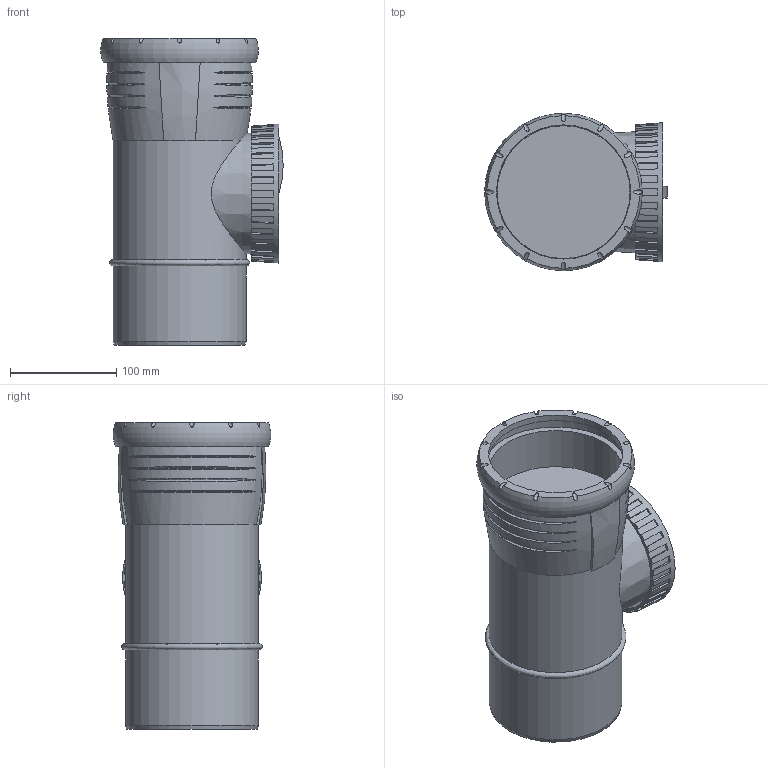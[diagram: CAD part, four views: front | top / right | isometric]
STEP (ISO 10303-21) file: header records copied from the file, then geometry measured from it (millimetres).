
FILE_DESCRIPTION(/* description */ (''),/* implementation_level */ '2;1');
FILE_NAME(/* name */ 'H:\Geberit-Teile\Export\Rein Stück PP\stp\393627.stp',/* time_stamp */ '2017-02-13T15:12:12+01:00',/* author */ ('seihe2'),/* organization */ (''),/* preprocessor_version */ 'ST-DEVELOPER v15.2',/* originating_system */ 'Autodesk Inventor 2014',/* authorisation */ '');
FILE_SCHEMA (('AUTOMOTIVE_DESIGN { 1 0 10303 214 3 1 1 }'));
Length unit declared in the file: millimetre
Products named in the file (1): 393627
Bounding box: 171.76 x 148.35 x 289 mm (x, y, z)
Volume: 3228829.8 mm3; surface area: 341254.7 mm2
Topology: 5 solids, 5 shells, 205 faces, 555 edges, 374 vertices
Faces by surface type: plane 148, cylinder 23, bspline 23, cone 10, torus 1
Full cylindrical faces by diameter (mm): 95.978 x1, 114.64 x1, 115.2 x1, 125.2 x3, 126 x1, 126.4 x1, 138.1 x1
Entity records: 8809 total; most frequent: CARTESIAN_POINT 3791, ORIENTED_EDGE 1064, DIRECTION 896, EDGE_CURVE 531, VERTEX_POINT 367, AXIS2_PLACEMENT_3D 317, LINE 262, VECTOR 262
